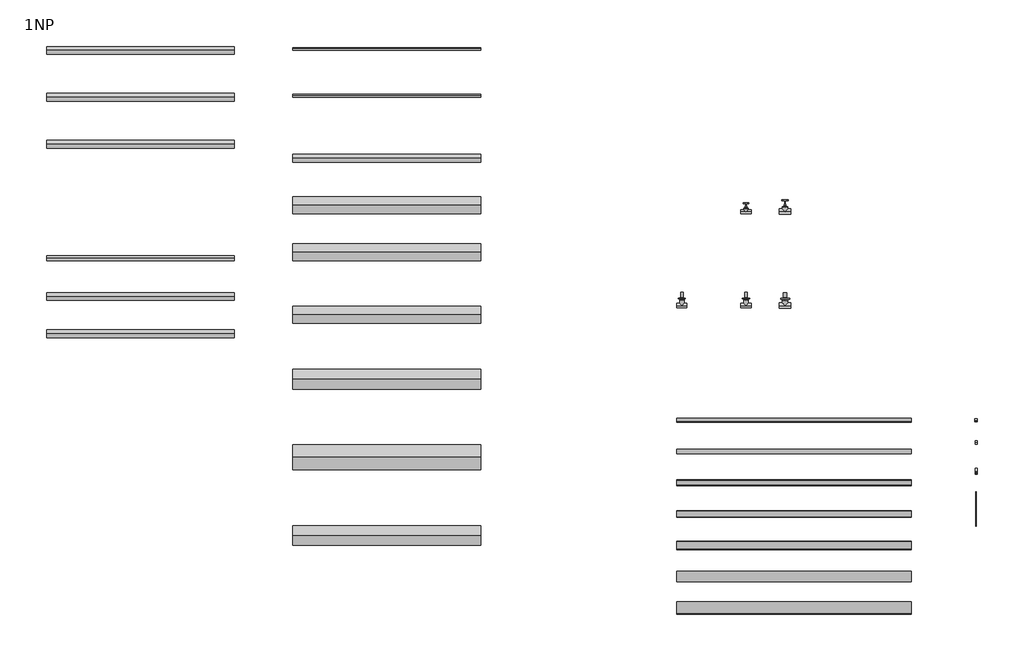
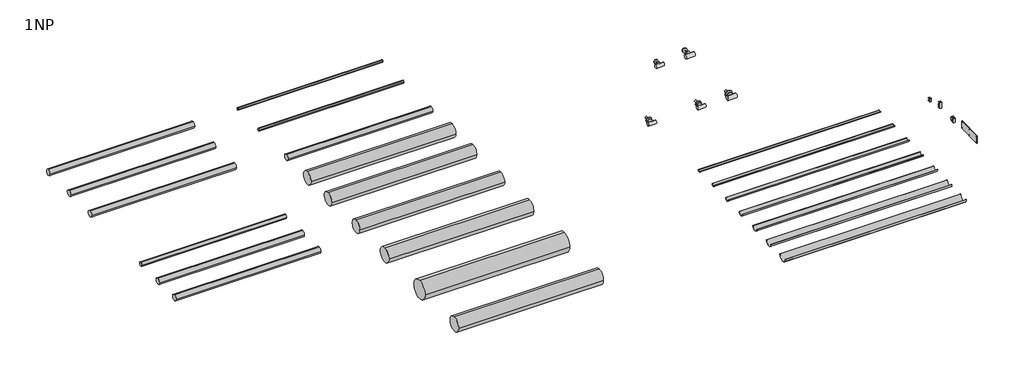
# One storey, incomplete: 16 valves, 15 pipe segments.
"""IFC4 building model written with IfcOpenShell, lengths in millimetres."""

from ifc_helpers import new_model, si_unit, point, frame, frame_2d, origin, place, context, project, spatial, circle_curve, trimmed, segment, composite_curve, outline, extrude, transform, mapped, element, save
from components import valve_1c483308, valve_92d850cb, valve_b5affd85, valve_f467247f, dn_20_connection_female_female_64e3fa1f, dn_20_connection_female_female_5b43c6f1, dn_25_connection_female_female_d176d5bb, dn_25_connection_female_female_cc53bf04, support_gutter_zinc_coated_20x2m_9f0b929f, support_gutter_zinc_coated_25x2m_91b4fca4, support_gutter_zinc_coated_32x2m_89c11884, support_gutter_zinc_coated_40x2m_fc38df55, support_gutter_zinc_coated_50x2m_4549794e, support_gutter_zinc_coated_63x2m_031b4794, support_gutter_zinc_coated_75x2m_5a0d65c1

model = new_model("IFC4")

# Units and contexts
model_context = context("Model", 3, world=origin())
ifc_project = project(units=[si_unit("LENGTHUNIT", "METRE", prefix="MILLI")], contexts=[model_context])

# Site, building, storey
site = spatial("IfcSite", under=ifc_project)
building = spatial("IfcBuilding", under=site)
storey = spatial("IfcBuildingStorey", under=building, Name="1NP", Elevation=0.0)

# Pipe segments
placement = place(None, origin())
element("IfcPipeSegment", 1, ObjectType="PP-R pipe S5, for low pressure distributions, cold water only", at=placement, inside=storey, context=model_context, shape_type="SweptSolid", body=[
    extrude(outline(composite_curve([segment(trimmed(circle_curve(frame_2d((-414.5392558, 0.0)), 25.0), [point((-439.5392558, 0.0))], [point((-414.5392558, 25.0))], False, "CARTESIAN"), True, "CONTINUOUS"), segment(trimmed(circle_curve(frame_2d((-414.5392558, 0.0)), 25.0), [point((-414.5392558, 25.0))], [point((-389.5392558, 0.0))], False, "CARTESIAN"), True, "CONTINUOUS"), segment(trimmed(circle_curve(frame_2d((-414.5392558, 0.0)), 25.0), [point((-389.5392558, 0.0))], [point((-414.5392558, -25.0))], False, "CARTESIAN"), True, "CONTINUOUS"), segment(trimmed(circle_curve(frame_2d((-414.5392558, 0.0)), 25.0), [point((-414.5392558, -25.0))], [point((-439.5392558, 0.0))], False, "CARTESIAN"), True, "CONTINUOUS")], self_intersect=False)), frame((-3871.3706073, 0.0, 0.0), z_axis=(1.0, 0.0, 0.0), x_axis=(0.0, 1.0, 0.0)), (0.0, 0.0, 1.0), 1200.0),
])
element("IfcPipeSegment", 2, ObjectType="PP-R pipe S3.2, for cold and drinking water distributions", at=placement, inside=storey, context=model_context, shape_type="SweptSolid", body=[
    extrude(outline(composite_curve([segment(trimmed(circle_curve(frame_2d((-714.5392558, 0.0)), 25.0), [point((-739.5392558, 0.0))], [point((-714.5392558, 25.0))], False, "CARTESIAN"), True, "CONTINUOUS"), segment(trimmed(circle_curve(frame_2d((-714.5392558, 0.0)), 25.0), [point((-714.5392558, 25.0))], [point((-689.5392558, 0.0))], False, "CARTESIAN"), True, "CONTINUOUS"), segment(trimmed(circle_curve(frame_2d((-714.5392558, 0.0)), 25.0), [point((-689.5392558, 0.0))], [point((-714.5392558, -25.0))], False, "CARTESIAN"), True, "CONTINUOUS"), segment(trimmed(circle_curve(frame_2d((-714.5392558, 0.0)), 25.0), [point((-714.5392558, -25.0))], [point((-739.5392558, 0.0))], False, "CARTESIAN"), True, "CONTINUOUS")], self_intersect=False)), frame((-3871.3706073, 0.0, 0.0), z_axis=(1.0, 0.0, 0.0), x_axis=(0.0, 1.0, 0.0)), (0.0, 0.0, 1.0), 1200.0),
])
element("IfcPipeSegment", 3, ObjectType="PP-R pipe S2.5, primarily for hot water distributions", at=placement, inside=storey, context=model_context, shape_type="SweptSolid", body=[
    extrude(outline(composite_curve([segment(trimmed(circle_curve(frame_2d((-1014.5392558, 0.0)), 25.0), [point((-1039.5392558, 0.0))], [point((-1014.5392558, 25.0))], False, "CARTESIAN"), True, "CONTINUOUS"), segment(trimmed(circle_curve(frame_2d((-1014.5392558, 0.0)), 25.0), [point((-1014.5392558, 25.0))], [point((-989.5392558, 0.0))], False, "CARTESIAN"), True, "CONTINUOUS"), segment(trimmed(circle_curve(frame_2d((-1014.5392558, 0.0)), 25.0), [point((-989.5392558, 0.0))], [point((-1014.5392558, -25.0))], False, "CARTESIAN"), True, "CONTINUOUS"), segment(trimmed(circle_curve(frame_2d((-1014.5392558, 0.0)), 25.0), [point((-1014.5392558, -25.0))], [point((-1039.5392558, 0.0))], False, "CARTESIAN"), True, "CONTINUOUS")], self_intersect=False)), frame((-3871.3706073, 0.0, 0.0), z_axis=(1.0, 0.0, 0.0), x_axis=(0.0, 1.0, 0.0)), (0.0, 0.0, 1.0), 1200.0),
])
element("IfcPipeSegment", 4, ObjectType="PP-RCT pipe Unibeta S3.2, for cold, drinking and hot water distributions", at=placement, inside=storey, context=model_context, shape_type="SweptSolid", body=[
    extrude(outline(composite_curve([segment(trimmed(circle_curve(frame_2d((-404.5392558, 0.0)), 8.0), [point((-412.5392558, 0.0))], [point((-404.5392558, 8.0))], False, "CARTESIAN"), True, "CONTINUOUS"), segment(trimmed(circle_curve(frame_2d((-404.5392558, 0.0)), 8.0), [point((-404.5392558, 8.0))], [point((-396.5392558, 0.0))], False, "CARTESIAN"), True, "CONTINUOUS"), segment(trimmed(circle_curve(frame_2d((-404.5392558, 0.0)), 8.0), [point((-396.5392558, 0.0))], [point((-404.5392558, -8.0))], False, "CARTESIAN"), True, "CONTINUOUS"), segment(trimmed(circle_curve(frame_2d((-404.5392558, 0.0)), 8.0), [point((-404.5392558, -8.0))], [point((-412.5392558, 0.0))], False, "CARTESIAN"), True, "CONTINUOUS")], self_intersect=False)), frame((-2295.2043724, 0.0, 0.0), z_axis=(1.0, 0.0, 0.0), x_axis=(0.0, 1.0, 0.0)), (0.0, 0.0, 1.0), 1200.0),
])
element("IfcPipeSegment", 5, ObjectType="PP-RCT pipe Unibeta S4, for cold, drinking and hot water distributions", at=placement, inside=storey, context=model_context, shape_type="SweptSolid", body=[
    extrude(outline(composite_curve([segment(trimmed(circle_curve(frame_2d((-1704.5392558, 0.0)), 55.0), [point((-1759.5392558, 0.0))], [point((-1704.5392558, 55.0))], False, "CARTESIAN"), True, "CONTINUOUS"), segment(trimmed(circle_curve(frame_2d((-1704.5392558, 0.0)), 55.0), [point((-1704.5392558, 55.0))], [point((-1649.5392558, 0.0))], False, "CARTESIAN"), True, "CONTINUOUS"), segment(trimmed(circle_curve(frame_2d((-1704.5392558, 0.0)), 55.0), [point((-1649.5392558, 0.0))], [point((-1704.5392558, -55.0))], False, "CARTESIAN"), True, "CONTINUOUS"), segment(trimmed(circle_curve(frame_2d((-1704.5392558, 0.0)), 55.0), [point((-1704.5392558, -55.0))], [point((-1759.5392558, 0.0))], False, "CARTESIAN"), True, "CONTINUOUS")], self_intersect=False)), frame((-2295.2043724, 0.0, 0.0), z_axis=(1.0, 0.0, 0.0), x_axis=(0.0, 1.0, 0.0)), (0.0, 0.0, 1.0), 1200.0),
])
element("IfcPipeSegment", 6, ObjectType="PP-RCT pipe Unibeta S4, for cold, drinking and hot water distributions, green colour", at=placement, inside=storey, context=model_context, shape_type="SweptSolid", body=[
    extrude(outline(composite_curve([segment(trimmed(circle_curve(frame_2d((-2517.5777052, 0.0)), 62.5), [point((-2580.0777052, 0.0))], [point((-2517.5777052, 62.5))], False, "CARTESIAN"), True, "CONTINUOUS"), segment(trimmed(circle_curve(frame_2d((-2517.5777052, 0.0)), 62.5), [point((-2517.5777052, 62.5))], [point((-2455.0777052, 0.0))], False, "CARTESIAN"), True, "CONTINUOUS"), segment(trimmed(circle_curve(frame_2d((-2517.5777052, 0.0)), 62.5), [point((-2455.0777052, 0.0))], [point((-2517.5777052, -62.5))], False, "CARTESIAN"), True, "CONTINUOUS"), segment(trimmed(circle_curve(frame_2d((-2517.5777052, 0.0)), 62.5), [point((-2517.5777052, -62.5))], [point((-2580.0777052, 0.0))], False, "CARTESIAN"), True, "CONTINUOUS")], self_intersect=False)), frame((-2295.7489838, 0.0, 0.0), z_axis=(1.0, 0.0, 0.0), x_axis=(0.0, 1.0, 0.0)), (0.0, 0.0, 1.0), 1200.0),
])
element("IfcPipeSegment", 7, ObjectType="PP-RCT Stabi Beta multilayer pipe with Al foil, for high-temperature applications", at=placement, inside=storey, context=model_context, shape_type="SweptSolid", body=[
    extrude(outline(composite_curve([segment(trimmed(circle_curve(frame_2d((-1404.5392558, 0.0)), 55.0), [point((-1459.5392558, 0.0))], [point((-1404.5392558, 55.0))], False, "CARTESIAN"), True, "CONTINUOUS"), segment(trimmed(circle_curve(frame_2d((-1404.5392558, 0.0)), 55.0), [point((-1404.5392558, 55.0))], [point((-1349.5392558, 0.0))], False, "CARTESIAN"), True, "CONTINUOUS"), segment(trimmed(circle_curve(frame_2d((-1404.5392558, 0.0)), 55.0), [point((-1349.5392558, 0.0))], [point((-1404.5392558, -55.0))], False, "CARTESIAN"), True, "CONTINUOUS"), segment(trimmed(circle_curve(frame_2d((-1404.5392558, 0.0)), 55.0), [point((-1404.5392558, -55.0))], [point((-1459.5392558, 0.0))], False, "CARTESIAN"), True, "CONTINUOUS")], self_intersect=False)), frame((-2295.2043724, 0.0, 0.0), z_axis=(1.0, 0.0, 0.0), x_axis=(0.0, 1.0, 0.0)), (0.0, 0.0, 1.0), 1200.0),
])
element("IfcPipeSegment", 8, ObjectType="PP-RCT multilayer Carbo S3.2 pipe with small dilatation, primary for high-temperature applications", at=placement, inside=storey, context=model_context, shape_type="SweptSolid", body=[
    extrude(outline(composite_curve([segment(trimmed(circle_curve(frame_2d((-1104.5392558, 0.0)), 25.0), [point((-1129.5392558, 0.0))], [point((-1104.5392558, 25.0))], False, "CARTESIAN"), True, "CONTINUOUS"), segment(trimmed(circle_curve(frame_2d((-1104.5392558, 0.0)), 25.0), [point((-1104.5392558, 25.0))], [point((-1079.5392558, 0.0))], False, "CARTESIAN"), True, "CONTINUOUS"), segment(trimmed(circle_curve(frame_2d((-1104.5392558, 0.0)), 25.0), [point((-1079.5392558, 0.0))], [point((-1104.5392558, -25.0))], False, "CARTESIAN"), True, "CONTINUOUS"), segment(trimmed(circle_curve(frame_2d((-1104.5392558, 0.0)), 25.0), [point((-1104.5392558, -25.0))], [point((-1129.5392558, 0.0))], False, "CARTESIAN"), True, "CONTINUOUS")], self_intersect=False)), frame((-2295.2043724, 0.0, 0.0), z_axis=(1.0, 0.0, 0.0), x_axis=(0.0, 1.0, 0.0)), (0.0, 0.0, 1.0), 1200.0),
])
element("IfcPipeSegment", 9, ObjectType="PP-RCT multilayer Carbo S4 pipe with small dilatation, primary for high-temperature applications", at=placement, inside=storey, context=model_context, shape_type="SweptSolid", body=[
    extrude(outline(composite_curve([segment(trimmed(circle_curve(frame_2d((-2104.5392558, 0.0)), 55.0), [point((-2159.5392558, 0.0))], [point((-2104.5392558, 55.0))], False, "CARTESIAN"), True, "CONTINUOUS"), segment(trimmed(circle_curve(frame_2d((-2104.5392558, 0.0)), 55.0), [point((-2104.5392558, 55.0))], [point((-2049.5392558, 0.0))], False, "CARTESIAN"), True, "CONTINUOUS"), segment(trimmed(circle_curve(frame_2d((-2104.5392558, 0.0)), 55.0), [point((-2049.5392558, 0.0))], [point((-2104.5392558, -55.0))], False, "CARTESIAN"), True, "CONTINUOUS"), segment(trimmed(circle_curve(frame_2d((-2104.5392558, 0.0)), 55.0), [point((-2104.5392558, -55.0))], [point((-2159.5392558, 0.0))], False, "CARTESIAN"), True, "CONTINUOUS")], self_intersect=False)), frame((-2295.2043724, 0.0, 0.0), z_axis=(1.0, 0.0, 0.0), x_axis=(0.0, 1.0, 0.0)), (0.0, 0.0, 1.0), 1200.0),
])
element("IfcPipeSegment", 10, ObjectType="PP-RCT multilayer Carbo S4 pipe with small dilatation, primary for high-temperature applications, green colour", at=placement, inside=storey, context=model_context, shape_type="SweptSolid", body=[
    extrude(outline(composite_curve([segment(trimmed(circle_curve(frame_2d((-3517.5777052, 0.0)), 62.5), [point((-3580.0777052, 0.0))], [point((-3517.5777052, 62.5))], False, "CARTESIAN"), True, "CONTINUOUS"), segment(trimmed(circle_curve(frame_2d((-3517.5777052, 0.0)), 62.5), [point((-3517.5777052, 62.5))], [point((-3455.0777052, 0.0))], False, "CARTESIAN"), True, "CONTINUOUS"), segment(trimmed(circle_curve(frame_2d((-3517.5777052, 0.0)), 62.5), [point((-3455.0777052, 0.0))], [point((-3517.5777052, -62.5))], False, "CARTESIAN"), True, "CONTINUOUS"), segment(trimmed(circle_curve(frame_2d((-3517.5777052, 0.0)), 62.5), [point((-3517.5777052, -62.5))], [point((-3580.0777052, 0.0))], False, "CARTESIAN"), True, "CONTINUOUS")], self_intersect=False)), frame((-2295.7489838, 0.0, 0.0), z_axis=(1.0, 0.0, 0.0), x_axis=(0.0, 1.0, 0.0)), (0.0, 0.0, 1.0), 1200.0),
])
element("IfcPipeSegment", 11, ObjectType="PP-RCT pipe Unibeta S4 in coil, for cold, drinking and hot water distributions", at=placement, inside=storey, context=model_context, shape_type="SweptSolid", body=[
    extrude(outline(composite_curve([segment(trimmed(circle_curve(frame_2d((-704.5392558, 0.0)), 10.0), [point((-714.5392558, 0.0))], [point((-704.5392558, 10.0))], False, "CARTESIAN"), True, "CONTINUOUS"), segment(trimmed(circle_curve(frame_2d((-704.5392558, 0.0)), 10.0), [point((-704.5392558, 10.0))], [point((-694.5392558, 0.0))], False, "CARTESIAN"), True, "CONTINUOUS"), segment(trimmed(circle_curve(frame_2d((-704.5392558, 0.0)), 10.0), [point((-694.5392558, 0.0))], [point((-704.5392558, -10.0))], False, "CARTESIAN"), True, "CONTINUOUS"), segment(trimmed(circle_curve(frame_2d((-704.5392558, 0.0)), 10.0), [point((-704.5392558, -10.0))], [point((-714.5392558, 0.0))], False, "CARTESIAN"), True, "CONTINUOUS")], self_intersect=False)), frame((-2295.2043724, 0.0, 0.0), z_axis=(1.0, 0.0, 0.0), x_axis=(0.0, 1.0, 0.0)), (0.0, 0.0, 1.0), 1200.0),
])
element("IfcPipeSegment", 12, ObjectType="PP-RCT pipe Unibeta S5, for cold, drinking and hot water distributions, green colour", at=placement, inside=storey, context=model_context, shape_type="SweptSolid", body=[
    extrude(outline(composite_curve([segment(trimmed(circle_curve(frame_2d((-3017.5777052, 0.0)), 80.0), [point((-3097.5777052, 0.0))], [point((-3017.5777052, 80.0))], False, "CARTESIAN"), True, "CONTINUOUS"), segment(trimmed(circle_curve(frame_2d((-3017.5777052, 0.0)), 80.0), [point((-3017.5777052, 80.0))], [point((-2937.5777052, 0.0))], False, "CARTESIAN"), True, "CONTINUOUS"), segment(trimmed(circle_curve(frame_2d((-3017.5777052, 0.0)), 80.0), [point((-2937.5777052, 0.0))], [point((-3017.5777052, -80.0))], False, "CARTESIAN"), True, "CONTINUOUS"), segment(trimmed(circle_curve(frame_2d((-3017.5777052, 0.0)), 80.0), [point((-3017.5777052, -80.0))], [point((-3097.5777052, 0.0))], False, "CARTESIAN"), True, "CONTINUOUS")], self_intersect=False)), frame((-2295.7489838, 0.0, 0.0), z_axis=(1.0, 0.0, 0.0), x_axis=(0.0, 1.0, 0.0)), (0.0, 0.0, 1.0), 1200.0),
])
element("IfcPipeSegment", 13, ObjectType="CARBO oxyCRP HEAT", at=placement, inside=storey, context=model_context, shape_type="SweptSolid", body=[
    extrude(outline(composite_curve([segment(trimmed(circle_curve(frame_2d((-1988.6510422, 0.0)), 25.0), [point((-2013.6510422, 0.0))], [point((-1988.6510422, 25.0))], False, "CARTESIAN"), True, "CONTINUOUS"), segment(trimmed(circle_curve(frame_2d((-1988.6510422, 0.0)), 25.0), [point((-1988.6510422, 25.0))], [point((-1963.6510422, 0.0))], False, "CARTESIAN"), True, "CONTINUOUS"), segment(trimmed(circle_curve(frame_2d((-1988.6510422, 0.0)), 25.0), [point((-1963.6510422, 0.0))], [point((-1988.6510422, -25.0))], False, "CARTESIAN"), True, "CONTINUOUS"), segment(trimmed(circle_curve(frame_2d((-1988.6510422, 0.0)), 25.0), [point((-1988.6510422, -25.0))], [point((-2013.6510422, 0.0))], False, "CARTESIAN"), True, "CONTINUOUS")], self_intersect=False)), frame((-3871.3706073, 0.0, 0.0), z_axis=(1.0, 0.0, 0.0), x_axis=(0.0, 1.0, 0.0)), (0.0, 0.0, 1.0), 1200.0),
])
element("IfcPipeSegment", 14, ObjectType="CARBO oxyCRP COOL", at=placement, inside=storey, context=model_context, shape_type="SweptSolid", body=[
    extrude(outline(composite_curve([segment(trimmed(circle_curve(frame_2d((-2225.7716151, 0.0)), 25.0), [point((-2250.7716151, 0.0))], [point((-2225.7716151, 25.0))], False, "CARTESIAN"), True, "CONTINUOUS"), segment(trimmed(circle_curve(frame_2d((-2225.7716151, 0.0)), 25.0), [point((-2225.7716151, 25.0))], [point((-2200.7716151, 0.0))], False, "CARTESIAN"), True, "CONTINUOUS"), segment(trimmed(circle_curve(frame_2d((-2225.7716151, 0.0)), 25.0), [point((-2200.7716151, 0.0))], [point((-2225.7716151, -25.0))], False, "CARTESIAN"), True, "CONTINUOUS"), segment(trimmed(circle_curve(frame_2d((-2225.7716151, 0.0)), 25.0), [point((-2225.7716151, -25.0))], [point((-2250.7716151, 0.0))], False, "CARTESIAN"), True, "CONTINUOUS")], self_intersect=False)), frame((-3871.3706073, 0.0, 0.0), z_axis=(1.0, 0.0, 0.0), x_axis=(0.0, 1.0, 0.0)), (0.0, 0.0, 1.0), 1200.0),
])
element("IfcPipeSegment", 15, ObjectType="CARBO oxyCRP HEAT/COOL", at=placement, inside=storey, context=model_context, shape_type="SweptSolid", body=[
    extrude(outline(composite_curve([segment(trimmed(circle_curve(frame_2d((-1742.3689352, 0.0)), 16.0), [point((-1758.3689352, 0.0))], [point((-1742.3689352, 16.0))], False, "CARTESIAN"), True, "CONTINUOUS"), segment(trimmed(circle_curve(frame_2d((-1742.3689352, 0.0)), 16.0), [point((-1742.3689352, 16.0))], [point((-1726.3689352, 0.0))], False, "CARTESIAN"), True, "CONTINUOUS"), segment(trimmed(circle_curve(frame_2d((-1742.3689352, 0.0)), 16.0), [point((-1726.3689352, 0.0))], [point((-1742.3689352, -16.0))], False, "CARTESIAN"), True, "CONTINUOUS"), segment(trimmed(circle_curve(frame_2d((-1742.3689352, 0.0)), 16.0), [point((-1742.3689352, -16.0))], [point((-1758.3689352, 0.0))], False, "CARTESIAN"), True, "CONTINUOUS")], self_intersect=False)), frame((-3871.3706073, 0.0, 0.0), z_axis=(1.0, 0.0, 0.0), x_axis=(0.0, 1.0, 0.0)), (0.0, 0.0, 1.0), 1200.0),
])

# Valves
valve_shape = valve_1c483308(model_context)
element("IfcValve", 16, ObjectType="PP-R_Clip : DN20 PP-R single clip", at=placement, inside=storey, context=model_context, shape_type="MappedRepresentation", body=[
    mapped(valve_shape, transform((2056.4379927, -2773.2484945, 0.0), x_axis=(1.0, 0.0, 0.0), y_axis=(0.0, 1.0, 0.0), z_axis=(0.0, 0.0, 1.0))),
])
valve_2_shape = valve_92d850cb(model_context)
element("IfcValve", 17, ObjectType="PP-R_Clip with lug : DN32 PP-R clip with lug", at=placement, inside=storey, context=model_context, shape_type="MappedRepresentation", body=[
    mapped(valve_2_shape, transform((2059.198709, -3105.216431, 0.0), x_axis=(1.0, 0.0, 0.0), y_axis=(0.0, 1.0, 0.0), z_axis=(0.0, 0.0, 1.0))),
])
valve_3_shape = valve_b5affd85(model_context)
element("IfcValve", 18, ObjectType="PP-R_Holder of wall piece : PP-R Holder of wall piece", at=placement, inside=storey, context=model_context, shape_type="MappedRepresentation", body=[
    mapped(valve_3_shape, transform((2071.2988845, -3359.0834757, 32.3128379), x_axis=(0.0, 1.0, 0.0), y_axis=(-1.0, 0.0, 0.0), z_axis=(0.0, 0.0, 1.0))),
])
valve_4_shape = valve_f467247f(model_context)
element("IfcValve", 19, ObjectType="PP-R_Double clip : DN16 PP-R double clip", at=placement, inside=storey, context=model_context, shape_type="MappedRepresentation", body=[
    mapped(valve_4_shape, transform((2058.7148549, -2915.364714, 0.0), x_axis=(1.0, 0.0, 0.0), y_axis=(0.0, 1.0, 0.0), z_axis=(0.0, 0.0, 1.0))),
])
dn_20_connection_female_female_shape = dn_20_connection_female_female_64e3fa1f(model_context)
element("IfcValve", 20, ObjectType="PP-R_Valve_chrome cover : DN 20 connection female/female", at=placement, inside=storey, context=model_context, shape_type="MappedRepresentation", body=[
    mapped(dn_20_connection_female_female_shape, transform((142.4028898, -2046.031793, 0.0), x_axis=(1.0, 0.0, 0.0), y_axis=(0.0, 0.0, -1.0), z_axis=(0.0, 1.0, 0.0))),
])
element("IfcValve", 21, ObjectType="PP-R_Valve_chrome cover : DN 20 connection female/female", at=placement, inside=storey, context=model_context, shape_type="MappedRepresentation", body=[
    mapped(dn_20_connection_female_female_shape, transform((552.4028898, -2046.031793, 0.0), x_axis=(1.0, 0.0, 0.0), y_axis=(0.0, 0.0, -1.0), z_axis=(0.0, 1.0, 0.0))),
])
dn_20_connection_female_female_2_shape = dn_20_connection_female_female_5b43c6f1(model_context)
element("IfcValve", 22, ObjectType="PP-R_Valve : DN 20 connection female/female", at=placement, inside=storey, context=model_context, shape_type="MappedRepresentation", body=[
    mapped(dn_20_connection_female_female_2_shape, transform((552.4028898, -1446.4534562, 0.0), x_axis=(1.0, 0.0, 0.0), y_axis=(0.0, 0.0, -1.0), z_axis=(0.0, 1.0, 0.0))),
])
dn_25_connection_female_female_shape = dn_25_connection_female_female_d176d5bb(model_context)
element("IfcValve", 23, ObjectType="PP-R_Valve : DN 25 connection female/female", at=placement, inside=storey, context=model_context, shape_type="MappedRepresentation", body=[
    mapped(dn_25_connection_female_female_shape, transform((802.4028898, -1446.4534562, 0.0), x_axis=(1.0, 0.0, 0.0), y_axis=(0.0, 0.0, -1.0), z_axis=(0.0, 1.0, 0.0))),
])
dn_25_connection_female_female_2_shape = dn_25_connection_female_female_cc53bf04(model_context)
element("IfcValve", 24, ObjectType="PP-R_Valve_chrome cover : DN 25 connection female/female", at=placement, inside=storey, context=model_context, shape_type="MappedRepresentation", body=[
    mapped(dn_25_connection_female_female_2_shape, transform((802.4028898, -2046.031793, 0.0), x_axis=(1.0, 0.0, 0.0), y_axis=(0.0, 0.0, -1.0), z_axis=(0.0, 1.0, 0.0))),
])
support_gutter_zinc_coated_20x2m_shape = support_gutter_zinc_coated_20x2m_9f0b929f(model_context)
element("IfcValve", 25, ObjectType="PP-R_Support gutter zinc-coated : support gutter zinc-coated 20x2m", at=placement, inside=storey, context=model_context, shape_type="MappedRepresentation", body=[
    mapped(support_gutter_zinc_coated_20x2m_shape, transform((150.2335844, -2779.5295271, 50.0), x_axis=(1.0, 0.0, 0.0), y_axis=(0.0, 1.0, 0.0), z_axis=(0.0, 0.0, 1.0))),
])
support_gutter_zinc_coated_25x2m_shape = support_gutter_zinc_coated_25x2m_91b4fca4(model_context)
element("IfcValve", 26, ObjectType="PP-R_Support gutter zinc-coated : support gutter zinc-coated 25x2m", at=placement, inside=storey, context=model_context, shape_type="MappedRepresentation", body=[
    mapped(support_gutter_zinc_coated_25x2m_shape, transform((150.2335844, -2979.5295271, 50.0), x_axis=(1.0, 0.0, 0.0), y_axis=(0.0, 1.0, 0.0), z_axis=(0.0, 0.0, 1.0))),
])
support_gutter_zinc_coated_32x2m_shape = support_gutter_zinc_coated_32x2m_89c11884(model_context)
element("IfcValve", 27, ObjectType="PP-R_Support gutter zinc-coated : support gutter zinc-coated 32x2m", at=placement, inside=storey, context=model_context, shape_type="MappedRepresentation", body=[
    mapped(support_gutter_zinc_coated_32x2m_shape, transform((150.2335844, -3179.5295271, 50.0), x_axis=(1.0, 0.0, 0.0), y_axis=(0.0, 1.0, 0.0), z_axis=(0.0, 0.0, 1.0))),
])
support_gutter_zinc_coated_40x2m_shape = support_gutter_zinc_coated_40x2m_fc38df55(model_context)
element("IfcValve", 28, ObjectType="PP-R_Support gutter zinc-coated : support gutter zinc-coated 40x2m", at=placement, inside=storey, context=model_context, shape_type="MappedRepresentation", body=[
    mapped(support_gutter_zinc_coated_40x2m_shape, transform((150.2335844, -3379.5295271, 50.0), x_axis=(1.0, 0.0, 0.0), y_axis=(0.0, 1.0, 0.0), z_axis=(0.0, 0.0, 1.0))),
])
support_gutter_zinc_coated_50x2m_shape = support_gutter_zinc_coated_50x2m_4549794e(model_context)
element("IfcValve", 29, ObjectType="PP-R_Support gutter zinc-coated : support gutter zinc-coated 50x2m", at=placement, inside=storey, context=model_context, shape_type="MappedRepresentation", body=[
    mapped(support_gutter_zinc_coated_50x2m_shape, transform((150.2335844, -3579.5295271, 50.0), x_axis=(1.0, 0.0, 0.0), y_axis=(0.0, 1.0, 0.0), z_axis=(0.0, 0.0, 1.0))),
])
support_gutter_zinc_coated_63x2m_shape = support_gutter_zinc_coated_63x2m_031b4794(model_context)
element("IfcValve", 30, ObjectType="PP-R_Support gutter zinc-coated : support gutter zinc-coated 63x2m", at=placement, inside=storey, context=model_context, shape_type="MappedRepresentation", body=[
    mapped(support_gutter_zinc_coated_63x2m_shape, transform((150.2335844, -3779.5295271, 50.0), x_axis=(1.0, 0.0, 0.0), y_axis=(0.0, 1.0, 0.0), z_axis=(0.0, 0.0, 1.0))),
])
support_gutter_zinc_coated_75x2m_shape = support_gutter_zinc_coated_75x2m_5a0d65c1(model_context)
element("IfcValve", 31, ObjectType="PP-R_Support gutter zinc-coated : support gutter zinc-coated 75x2m", at=placement, inside=storey, context=model_context, shape_type="MappedRepresentation", body=[
    mapped(support_gutter_zinc_coated_75x2m_shape, transform((150.2335844, -3979.5295271, 50.0), x_axis=(1.0, 0.0, 0.0), y_axis=(0.0, 1.0, 0.0), z_axis=(0.0, 0.0, 1.0))),
])

save(model, "model.ifc")
